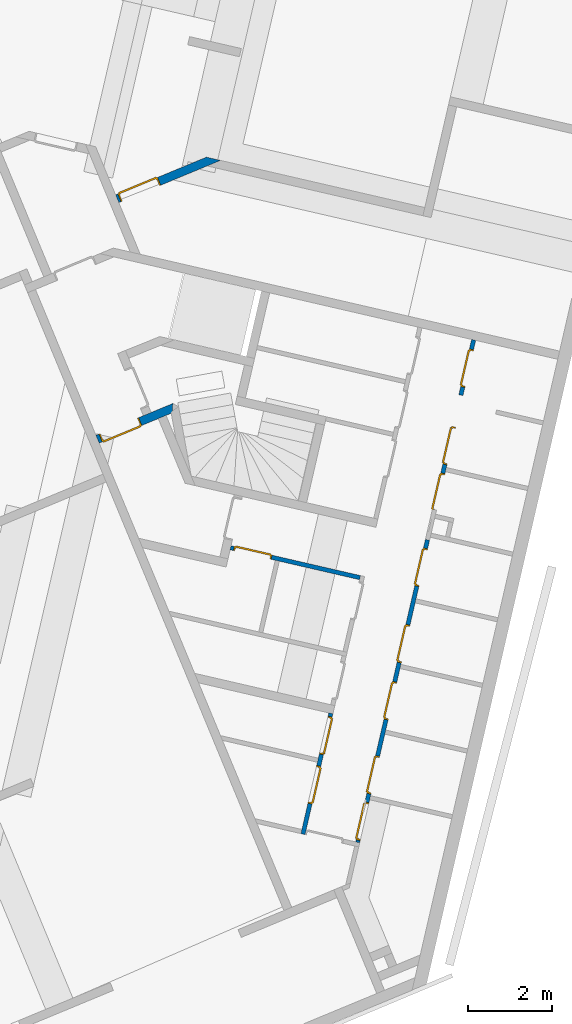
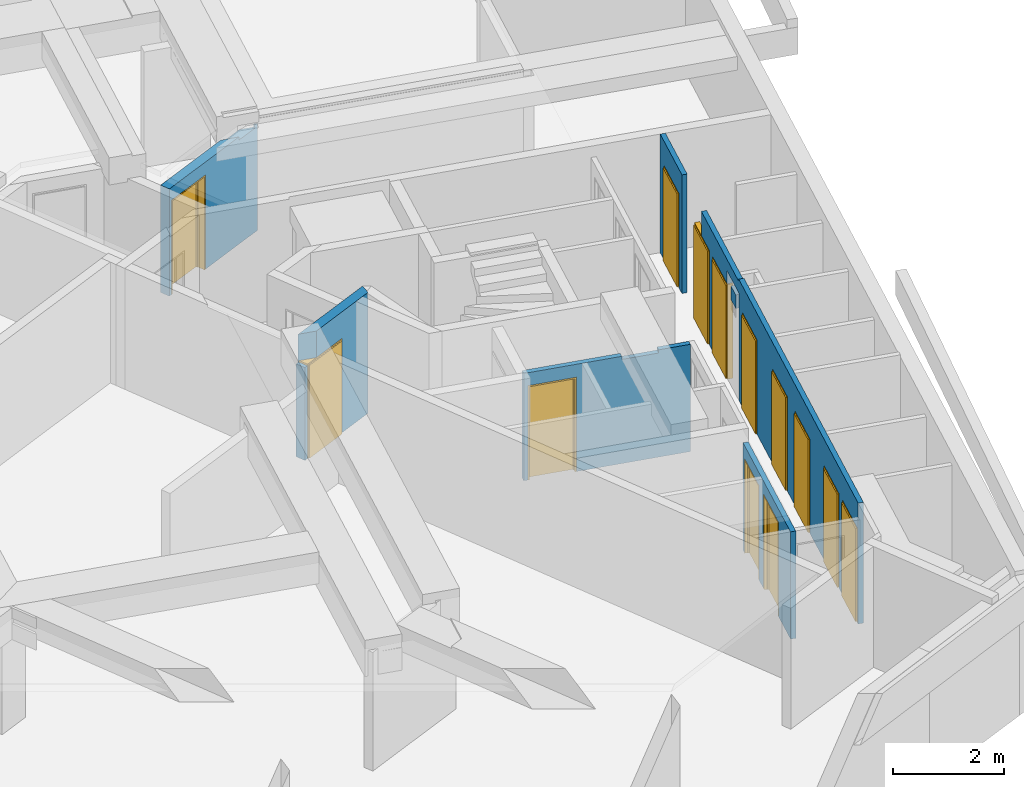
# One storey, part 5 of 20: 13 doors, 5 walls, 13 openings.
"""IFC2X3 building model written with IfcOpenShell, lengths in metres."""

from ifc_helpers import new_model, entity, si_unit, converted_unit, derived_unit, money_unit, direction, frame, origin_with_axes, place, context, subcontext, project, spatial, faceted_brep, source, transform, mapped, material, type_object, element, fill, save


model = new_model("IFC2X3")

# Units and contexts
model_context = context("Model", 3, precision=1e-05, world=origin_with_axes(), true_north=direction((0.0, 1.0)))
body_context = subcontext(model_context, "Body", "Model", "MODEL_VIEW")
ifc_project = project(units=[si_unit("LENGTHUNIT", "METRE"), si_unit("AREAUNIT", "SQUARE_METRE"), si_unit("VOLUMEUNIT", "CUBIC_METRE"), converted_unit("PLANEANGLEUNIT", "DEGREE", entity("IfcPlaneAngleMeasure", 0.0174532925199), si_unit("PLANEANGLEUNIT", "RADIAN"), dimensions=[0, 0, 0, 0, 0, 0, 0]), si_unit("SOLIDANGLEUNIT", "STERADIAN"), money_unit("EUR"), converted_unit("TIMEUNIT", "Year", entity("IfcTimeMeasure", 31556926.0), si_unit("TIMEUNIT", "SECOND"), dimensions=[0, 0, 1, 0, 0, 0, 0]), si_unit("MASSUNIT", "GRAM", prefix="KILO"), si_unit("THERMODYNAMICTEMPERATUREUNIT", "DEGREE_CELSIUS"), si_unit("LUMINOUSINTENSITYUNIT", "LUMEN"), si_unit("ENERGYUNIT", "JOULE", prefix="MEGA"), derived_unit("THERMALCONDUCTANCEUNIT", [(si_unit("POWERUNIT", "WATT"), 1), (si_unit("LENGTHUNIT", "METRE"), -1), (si_unit("THERMODYNAMICTEMPERATUREUNIT", "KELVIN"), -1)]), derived_unit("SPECIFICHEATCAPACITYUNIT", [(si_unit("ENERGYUNIT", "JOULE"), 1), (si_unit("MASSUNIT", "GRAM", prefix="KILO"), -1), (si_unit("THERMODYNAMICTEMPERATUREUNIT", "KELVIN"), -1)]), derived_unit("MASSDENSITYUNIT", [(si_unit("MASSUNIT", "GRAM", prefix="KILO"), 1), (si_unit("VOLUMEUNIT", "CUBIC_METRE"), -1)])], contexts=[model_context])

# Site, building, storey
site_placement = place(None, origin_with_axes())
site = spatial("IfcSite", under=ifc_project, at=site_placement, Name="Site", CompositionType="ELEMENT")
building_placement = place(site_placement, origin_with_axes())
building = spatial("IfcBuilding", under=site, at=building_placement, Name="Bâtiment", CompositionType="ELEMENT")
storey_placement = place(building_placement, frame((0.0, 0.0, -2.9), z_axis=(0.0, 0.0, 1.0), x_axis=(1.0, 0.0, 0.0)))
storey = spatial("IfcBuildingStorey", under=building, at=storey_placement, Name="Sous-sol", CompositionType="ELEMENT", Elevation=-2.9)

# Wall, opening, door
ifc_material_1 = material(Name="Béton")
wall_type_1 = type_object("IfcWallType", Name="Béton 200", PredefinedType="USERDEFINED")
wall_1_placement = place(storey_placement, frame((-9.51991530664, -7.52810035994, 0.0), z_axis=(0.0, 0.0, 1.0), x_axis=(-0.923701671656, -0.383112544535, 0.0)))
wall_1 = element("IfcWall", 1, at=wall_1_placement, inside=storey, type_object=wall_type_1, material=ifc_material_1, Name="M_Ext-007", ObjectType="SOLIDWALL", context=body_context, shape_type="Brep", body=[
    faceted_brep([(0.879333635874, 0.2, 2.085), (0.879333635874, 0.2, 0.0), (0.0956295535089, 0.2, 0.0), (0.0956295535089, 0.2, 2.67), (1.63554819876, 0.2, 2.67), (1.63554819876, 0.2, 2.085), (0.879333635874, 0.0, 2.085), (0.879333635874, 0.0, 0.0), (0.0, 0.0, 0.0), (0.0, 0.0, 2.67), (1.91570804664, 0.0, 2.67), (1.89933363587, 0.0116893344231, 2.085), (1.91570804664, 0.0, 2.0499999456), (1.89933363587, 0.0116893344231, 2.0499999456), (1.89933363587, 0.0, 2.085), (1.89933363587, 0.0, 0.0), (1.97710914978, 0.0, 0.0), (1.97710914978, 0.0, 2.0499999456), (1.89933363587, 0.2, 2.0499999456), (1.97710914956, 0.2, 2.0499999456), (1.89933363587, 0.2, 0.0), (1.97710914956, 0.2, 0.0)], [[[0, 1, 2, 3, 4, 5]], [[1, 0, 6, 7]], [[1, 7, 8, 2]], [[2, 8, 9, 3]], [[10, 4, 3, 9]], [[11, 5, 4, 10, 12, 13]], [[0, 5, 11, 14, 6]], [[14, 15, 16, 17, 12, 10, 9, 8, 7, 6]], [[18, 13, 12, 17, 19]], [[13, 18, 20, 15, 14, 11]], [[15, 20, 21, 16]], [[19, 17, 16, 21]], [[20, 18, 19, 21]]]),
])
opening_1_placement = place(wall_1_placement, frame((1.38933363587, 0.0, 0.0), z_axis=(0.0, 0.0, 1.0), x_axis=(1.0, 0.0, 0.0)))
opening_1 = element("IfcOpeningElement", 2, at=opening_1_placement, cuts=wall_1, Name="Porte 93x204 bois CF", context=body_context, shape_type="Brep", body=[
    faceted_brep([(0.51, -0.2, 0.0), (-0.51, -0.2, 0.0), (-0.51, 0.2, 0.0), (0.51, 0.2, 0.0), (0.51, -0.2, 2.085), (-0.51, -0.2, 2.085), (-0.51, 0.2, 2.085), (0.51, 0.2, 2.085)], [[[0, 1, 2, 3]], [[0, 4, 5, 1]], [[1, 5, 6, 2]], [[3, 2, 6, 7]], [[4, 0, 3, 7]], [[5, 4, 7, 6]]]),
])
door_style_1 = type_object("IfcDoorStyle", Name="Porte int générique 2019", ConstructionType="NOTDEFINED", OperationType="SINGLE_SWING_RIGHT", ParameterTakesPrecedence=False, Sizeable=False)
shared_shape_1 = source(origin_with_axes(), body_context, "Body", "Brep", [
    faceted_brep([(0.51, 0.12, 0.0), (0.48, 0.12, 0.0), (0.48, 0.12, 2.055), (-0.48, 0.12, 2.055), (-0.48, 0.12, 0.0), (-0.51, 0.12, 0.0), (-0.51, 0.12, 2.085), (0.51, 0.12, 2.085), (0.51, -0.08, 0.0), (0.48, -0.08, 0.0), (0.48, 0.075, 0.0), (0.465, 0.075, 0.0), (0.465, 0.105, 0.0), (0.48, 0.105, 0.0), (0.48, 0.105, 2.055), (-0.48, 0.105, 2.055), (-0.48, 0.105, 0.0), (-0.465, 0.105, 0.0), (-0.465, 0.075, 0.0), (-0.48, 0.075, 0.0), (-0.48, -0.08, 0.0), (-0.51, -0.08, 0.0), (-0.51, -0.08, 2.085), (0.51, -0.08, 2.085), (-0.48, -0.08, 2.055), (0.48, -0.08, 2.055), (0.48, 0.075, 2.055), (-0.48, 0.075, 2.055), (-0.465, 0.075, 2.04), (0.465, 0.075, 2.04), (0.465, 0.105, 2.04), (-0.465, 0.105, 2.04)], [[[0, 1, 2, 3, 4, 5, 6, 7]], [[0, 8, 9, 10, 11, 12, 13, 1]], [[1, 13, 14, 2]], [[2, 14, 15, 3]], [[3, 15, 16, 4]], [[5, 4, 16, 17, 18, 19, 20, 21]], [[22, 6, 5, 21]], [[23, 7, 6, 22]], [[8, 0, 7, 23]], [[9, 8, 23, 22, 21, 20, 24, 25]], [[10, 9, 25, 26]], [[11, 10, 26, 27, 19, 18, 28, 29]], [[12, 11, 29, 30]], [[13, 12, 30, 31, 17, 16, 15, 14]], [[31, 28, 18, 17]], [[27, 24, 20, 19]], [[26, 25, 24, 27]], [[30, 29, 28, 31]]]),
    faceted_brep([(0.48, 0.145, 0.0), (0.48, 0.105, 0.0), (-0.48, 0.105, 0.0), (-0.48, 0.145, 0.0), (0.48, 0.145, 2.055), (0.48, 0.105, 2.055), (-0.48, 0.105, 2.055), (-0.48, 0.145, 2.055)], [[[0, 1, 2, 3]], [[4, 5, 1, 0]], [[1, 5, 6, 2]], [[3, 2, 6, 7]], [[0, 3, 7, 4]], [[7, 6, 5, 4]]]),
])
door_1_placement = place(opening_1_placement, frame((-0.465, 0.0, 0.0), z_axis=(0.0, 0.0, 1.0), x_axis=(1.0, 0.0, 0.0)))
door_1 = element("IfcDoor", 3, at=door_1_placement, inside=storey, type_object=door_style_1, Name="Porte 93x204 bois CF", ObjectType="DOOR", OverallHeight=2.04, OverallWidth=0.93, context=body_context, shape_type="MappedRepresentation", body=[
    mapped(shared_shape_1, transform((0.465, 0.08, 0.0))),
])
fill(opening_1, door_1)

wall_2_placement = place(storey_placement, frame((-11.0643821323, -2.64828774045, 0.0), z_axis=(0.0, 0.0, 1.0), x_axis=(0.923701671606, 0.383112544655, 0.0)))
wall_2 = element("IfcWall", 4, at=wall_2_placement, inside=storey, type_object=wall_type_1, material=ifc_material_1, Name="M_Ext-007", ObjectType="SOLIDWALL", context=body_context, shape_type="Brep", body=[
    faceted_brep([(0.257725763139, -0.2, 0.0), (0.257725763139, -0.2, 2.085), (1.27772576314, -0.2, 2.085), (1.27772576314, -0.2, 0.0), (2.81630708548, -0.2, 0.0), (2.81630708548, -0.2, 2.37), (2.73141202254, -0.2, 2.37), (2.73141202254, -0.2, 2.3), (2.26934207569, -0.2, 2.3), (2.26934207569, -0.2, 2.37), (0.2, -0.2, 2.37), (0.2, -0.2, 0.0), (0.257725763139, 0.0, 0.0), (0.257725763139, 0.0, 2.085), (1.27772576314, 0.0, 2.085), (1.27772576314, 0.0, 0.0), (2.5361472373, 0.0, 0.0), (2.76007111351, -0.159854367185, 2.37), (2.5361472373, 0.0, 2.3), (2.76007111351, -0.159854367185, 2.3), (1.98918222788, 0.0, 2.3), (1.98918222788, 0.0, 2.37), (0.2, 0.0, 2.37), (0.2, 0.0, 0.0)], [[[0, 1, 2, 3, 4, 5, 6, 7, 8, 9, 10, 11]], [[1, 0, 12, 13]], [[2, 1, 13, 14]], [[3, 2, 14, 15]], [[3, 15, 16, 4]], [[17, 5, 4, 16, 18, 19]], [[5, 17, 6]], [[6, 17, 19, 7]], [[18, 20, 8, 7, 19]], [[21, 9, 8, 20]], [[9, 21, 22, 10]], [[23, 11, 10, 22]], [[12, 0, 11, 23]], [[13, 12, 23, 22, 21, 20, 18, 16, 15, 14]]]),
])
opening_2_placement = place(wall_2_placement, frame((0.767725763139, 0.0, 0.0), z_axis=(0.0, 0.0, 1.0), x_axis=(1.0, 0.0, 0.0)))
opening_2 = element("IfcOpeningElement", 5, at=opening_2_placement, cuts=wall_2, Name="Porte 93x204 bois CF", context=body_context, shape_type="Brep", body=[
    faceted_brep([(-0.51, 0.2, 0.0), (0.51, 0.2, 0.0), (0.51, -0.2, 0.0), (-0.51, -0.2, 0.0), (-0.51, 0.2, 2.085), (0.51, 0.2, 2.085), (0.51, -0.2, 2.085), (-0.51, -0.2, 2.085)], [[[0, 1, 2, 3]], [[0, 4, 5, 1]], [[1, 5, 6, 2]], [[3, 2, 6, 7]], [[4, 0, 3, 7]], [[5, 4, 7, 6]]]),
])
door_style_2 = type_object("IfcDoorStyle", Name="Porte int générique 2019", ConstructionType="NOTDEFINED", OperationType="SINGLE_SWING_LEFT", ParameterTakesPrecedence=False, Sizeable=False)
shared_shape_2 = source(origin_with_axes(), body_context, "Body", "Brep", [
    faceted_brep([(-0.51, 0.12, 0.0), (-0.51, 0.12, 2.085), (0.51, 0.12, 2.085), (0.51, 0.12, 0.0), (0.48, 0.12, 0.0), (0.48, 0.12, 2.055), (-0.48, 0.12, 2.055), (-0.48, 0.12, 0.0), (-0.51, -0.08, 0.0), (-0.51, -0.08, 2.085), (0.51, -0.08, 2.085), (0.51, -0.08, 0.0), (0.48, -0.08, 0.0), (0.48, 0.075, 0.0), (0.465, 0.075, 0.0), (0.465, 0.105, 0.0), (0.48, 0.105, 0.0), (0.48, 0.105, 2.055), (-0.48, 0.105, 2.055), (-0.48, 0.105, 0.0), (-0.465, 0.105, 0.0), (-0.465, 0.075, 0.0), (-0.48, 0.075, 0.0), (-0.48, -0.08, 0.0), (-0.48, -0.08, 2.055), (0.48, -0.08, 2.055), (0.48, 0.075, 2.055), (-0.465, 0.075, 2.04), (0.465, 0.075, 2.04), (-0.48, 0.075, 2.055), (0.465, 0.105, 2.04), (-0.465, 0.105, 2.04)], [[[0, 1, 2, 3, 4, 5, 6, 7]], [[8, 9, 1, 0]], [[9, 10, 2, 1]], [[10, 11, 3, 2]], [[3, 11, 12, 13, 14, 15, 16, 4]], [[5, 4, 16, 17]], [[6, 5, 17, 18]], [[7, 6, 18, 19]], [[0, 7, 19, 20, 21, 22, 23, 8]], [[23, 24, 25, 12, 11, 10, 9, 8]], [[26, 13, 12, 25]], [[21, 27, 28, 14, 13, 26, 29, 22]], [[30, 15, 14, 28]], [[19, 18, 17, 16, 15, 30, 31, 20]], [[20, 31, 27, 21]], [[22, 29, 24, 23]], [[29, 26, 25, 24]], [[31, 30, 28, 27]]]),
    faceted_brep([(-0.48, 0.145, 0.0), (0.48, 0.145, 0.0), (0.48, 0.105, 0.0), (-0.48, 0.105, 0.0), (-0.48, 0.145, 2.055), (0.48, 0.145, 2.055), (0.48, 0.105, 2.055), (-0.48, 0.105, 2.055)], [[[0, 1, 2, 3]], [[0, 4, 5, 1]], [[1, 5, 6, 2]], [[3, 2, 6, 7]], [[4, 0, 3, 7]], [[5, 4, 7, 6]]]),
])
door_2_placement = place(opening_2_placement, frame((-0.465, 0.0, 0.0), z_axis=(0.0, 0.0, 1.0), x_axis=(1.0, 0.0, 0.0)))
door_2 = element("IfcDoor", 6, at=door_2_placement, inside=storey, type_object=door_style_2, Name="Porte 93x204 bois CF", ObjectType="DOOR", OverallHeight=2.04, OverallWidth=0.93, context=body_context, shape_type="MappedRepresentation", body=[
    mapped(shared_shape_2, transform((0.465, -0.12, 0.0))),
])
fill(opening_2, door_2)

# Wall, openings, doors
ifc_material_2 = material(Name="Parpaing 10cm")
wall_type_2 = type_object("IfcWallType", Name="Parpaing 10cm 100", PredefinedType="USERDEFINED")
wall_3_placement = place(storey_placement, frame((-2.42304476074, -6.00670699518, 0.0), z_axis=(0.0, 0.0, 1.0), x_axis=(-0.224876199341, -0.974387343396, 0.0)))
wall_3 = element("IfcWall", 7, at=wall_3_placement, inside=storey, type_object=wall_type_2, material=ifc_material_2, Name="Parpaing 10x50x20", ObjectType="PARTITIONING", context=body_context, shape_type="Brep", body=[
    faceted_brep([(4.38007385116, 0.0, 2.2), (4.38007385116, 0.0, 1.9), (4.68007385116, -1.52561741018e-10, 1.9), (4.68007385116, -1.52561741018e-10, 2.2), (4.38007385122, 0.100000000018, 2.2), (4.38007385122, 0.100000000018, 1.9), (4.68007385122, 0.0999999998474, 1.9), (4.68007385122, 0.0999999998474, 2.2)], [[[0, 1, 2, 3]], [[1, 0, 4, 5]], [[2, 1, 5, 6]], [[3, 2, 6, 7]], [[0, 3, 7, 4]], [[4, 7, 6, 5]]]),
    faceted_brep([(12.1948722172, 0.099999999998, 0.0), (12.1948722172, 0.0999999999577, 2.085), (11.2748722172, 0.0999999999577, 2.085), (11.2748722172, 0.0999999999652, 0.0), (11.063398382, 0.0999999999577, 0.0), (11.063398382, 0.0999999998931, 2.085), (10.143398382, 0.0999999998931, 2.085), (10.143398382, 0.0999999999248, 0.0), (9.25561383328, 0.0999999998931, 0.0), (9.25561383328, 0.0999999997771, 2.085), (8.33561383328, 0.0999999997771, 2.085), (8.33561383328, 0.0999999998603, 0.0), (7.86501033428, 0.0999999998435, 0.0), (7.86501033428, 0.100000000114, 2.085), (6.94501033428, 0.100000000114, 2.085), (6.94501033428, 0.0999999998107, 0.0), (6.00294904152, 0.0999999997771, 0.0), (6.00294904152, 0.0999999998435, 2.085), (5.08294904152, 0.0999999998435, 2.085), (5.08294904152, 0.0999999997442, 0.0), (4.8749999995, 0.0999999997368, 0.0), (4.8749999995, 0.0999999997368, 2.37), (4.1386356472, 0.100000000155, 2.37), (4.1386356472, 0.100000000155, 2.085), (3.25164068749, 0.100000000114, 2.085), (3.25164068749, 0.100000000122, 0.0), (3.03685922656, 0.100000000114, 0.0), (3.03685922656, 0.100000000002, 2.085), (2.54724403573, 0.100000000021, 2.085), (2.54724403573, 0.100000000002, 2.62), (4.85999541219, 0.1, 2.62), (4.85999618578, 0.1, 2.67), (12.2500000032, 0.1, 2.67), (12.2500000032, 0.1, 2.37), (12.2500000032, 0.1, 0.0), (12.1948722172, 0.0, 0.0), (12.1948722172, 0.0, 2.085), (11.2748722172, 0.0, 2.085), (11.2748722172, 0.0, 0.0), (11.063398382, 0.0, 0.0), (11.063398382, 0.0, 2.085), (10.143398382, 0.0, 2.085), (10.143398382, 0.0, 0.0), (9.25561383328, -1.08954401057e-10, 0.0), (9.25561383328, 0.0, 2.085), (8.33561383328, 0.0, 2.085), (8.33561383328, -1.41347156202e-10, 0.0), (7.86501033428, -1.579170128e-10, 0.0), (7.86501033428, 0.0, 2.085), (6.94501033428, 0.0, 2.085), (6.94501033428, -1.90311100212e-10, 0.0), (6.00294904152, -2.23480123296e-10, 0.0), (6.00294904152, 0.0, 2.085), (5.08294904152, 0.0, 2.085), (5.08294904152, -2.55871990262e-10, 0.0), (4.87499999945, -2.63194133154e-10, 0.0), (4.87499999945, -2.63194133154e-10, 2.37), (4.13863564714, 1.54739998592e-10, 2.37), (4.13863564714, 1.54739998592e-10, 2.085), (3.25164068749, 0.0, 2.085), (3.25164068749, 1.21576748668e-10, 0.0), (3.03685922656, 1.13545839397e-10, 0.0), (3.03685922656, 0.0, 2.085), (2.54724403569, 0.0, 2.085), (2.54724403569, 0.0, 2.62), (4.85999525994, 0.0, 2.62), (4.85999599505, 0.0, 2.67), (12.2500000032, 0.0, 2.67), (12.2500000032, 0.0, 0.0), (12.2500000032, 0.0, 2.37)], [[[0, 1, 2, 3, 4, 5, 6, 7, 8, 9, 10, 11, 12, 13, 14, 15, 16, 17, 18, 19, 20, 21, 22, 23, 24, 25, 26, 27, 28, 29, 30, 31, 32, 33, 34]], [[1, 0, 35, 36]], [[2, 1, 36, 37]], [[3, 2, 37, 38]], [[3, 38, 39, 4]], [[4, 39, 40, 5]], [[5, 40, 41, 6]], [[6, 41, 42, 7]], [[42, 43, 8, 7]], [[43, 44, 9, 8]], [[44, 45, 10, 9]], [[45, 46, 11, 10]], [[47, 12, 11, 46]], [[13, 12, 47, 48]], [[14, 13, 48, 49]], [[15, 14, 49, 50]], [[50, 51, 16, 15]], [[52, 17, 16, 51]], [[53, 18, 17, 52]], [[54, 19, 18, 53]], [[20, 19, 54, 55]], [[20, 55, 56, 21]], [[21, 56, 57, 22]], [[23, 22, 57, 58]], [[23, 58, 59, 24]], [[24, 59, 60, 25]], [[60, 61, 26, 25]], [[61, 62, 27, 26]], [[27, 62, 63, 28]], [[64, 29, 28, 63]], [[64, 65, 30, 29]], [[30, 65, 66, 31]], [[67, 32, 31, 66]], [[68, 34, 33, 32, 67, 69]], [[35, 0, 34, 68]], [[36, 35, 68, 69, 67, 66, 65, 64, 63, 62, 61, 60, 59, 58, 57, 56, 55, 54, 53, 52, 51, 50, 49, 48, 47, 46, 45, 44, 43, 42, 41, 40, 39, 38, 37]]]),
    faceted_brep([(1.15004898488, 0.100000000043, 0.0), (1.15004898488, 0.1, 2.085), (0.230048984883, 0.1, 2.085), (0.230048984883, 0.100000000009, 0.0), (-4.32536673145e-10, 0.1, 0.0), (-4.32535784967e-10, 0.1, 2.62), (1.34724403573, 0.100000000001, 2.62), (1.34724403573, 0.10000000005, 0.0), (1.15004898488, 0.0, 0.0), (1.15004898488, 0.0, 2.085), (0.230048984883, 0.0, 2.085), (0.230048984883, 0.0, 0.0), (-4.87980322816e-10, 0.0, 0.0), (-4.87980322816e-10, 0.0, 2.62), (1.34724403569, 0.0, 2.62), (1.34724403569, 0.0, 0.0)], [[[0, 1, 2, 3, 4, 5, 6, 7]], [[1, 0, 8, 9]], [[2, 1, 9, 10]], [[3, 2, 10, 11]], [[3, 11, 12, 4]], [[13, 5, 4, 12]], [[6, 5, 13, 14]], [[6, 14, 15, 7]], [[8, 0, 7, 15]], [[9, 8, 15, 14, 13, 12, 11, 10]]]),
])
opening_3_placement = place(wall_3_placement, frame((0.690048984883, 0.0, 0.0), z_axis=(0.0, 0.0, 1.0), x_axis=(1.0, 0.0, 0.0)))
opening_3 = element("IfcOpeningElement", 8, at=opening_3_placement, cuts=wall_3, Name="Porte 83x204 bois bâti métal", context=body_context, shape_type="Brep", body=[
    faceted_brep([(-0.46, 0.1, 0.0), (0.46, 0.1, 0.0), (0.46, -0.1, 0.0), (-0.46, -0.1, 0.0), (-0.46, 0.1, 2.085), (0.46, 0.1, 2.085), (0.46, -0.1, 2.085), (-0.46, -0.1, 2.085)], [[[0, 1, 2, 3]], [[0, 4, 5, 1]], [[1, 5, 6, 2]], [[3, 2, 6, 7]], [[4, 0, 3, 7]], [[5, 4, 7, 6]]]),
])
opening_4_placement = place(wall_3_placement, frame((2.57685922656, 0.0, 0.0), z_axis=(0.0, 0.0, 1.0), x_axis=(1.0, 0.0, 0.0)))
opening_4 = element("IfcOpeningElement", 9, at=opening_4_placement, cuts=wall_3, Name="Porte 83x204 bois bâti métal", context=body_context, shape_type="Brep", body=[
    faceted_brep([(-0.46, 0.1, 0.0), (0.46, 0.1, 0.0), (0.46, -0.1, 0.0), (-0.46, -0.1, 0.0), (-0.46, 0.1, 2.085), (0.46, 0.1, 2.085), (0.46, -0.1, 2.085), (-0.46, -0.1, 2.085)], [[[0, 1, 2, 3]], [[0, 4, 5, 1]], [[1, 5, 6, 2]], [[3, 2, 6, 7]], [[4, 0, 3, 7]], [[5, 4, 7, 6]]]),
])
opening_5_placement = place(wall_3_placement, frame((3.71164068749, 0.0, 0.0), z_axis=(0.0, 0.0, 1.0), x_axis=(1.0, 0.0, 0.0)))
opening_5 = element("IfcOpeningElement", 10, at=opening_5_placement, cuts=wall_3, Name="Porte 83x204 bois bâti métal", context=body_context, shape_type="Brep", body=[
    faceted_brep([(-0.46, 0.1, 0.0), (0.46, 0.1, 0.0), (0.46, -0.1, 0.0), (-0.46, -0.1, 0.0), (-0.46, 0.1, 2.085), (0.46, 0.1, 2.085), (0.46, -0.1, 2.085), (-0.46, -0.1, 2.085)], [[[0, 1, 2, 3]], [[0, 4, 5, 1]], [[1, 5, 6, 2]], [[3, 2, 6, 7]], [[4, 0, 3, 7]], [[5, 4, 7, 6]]]),
])
opening_6_placement = place(wall_3_placement, frame((7.40501033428, 0.0, 0.0), z_axis=(0.0, 0.0, 1.0), x_axis=(1.0, 0.0, 0.0)))
opening_6 = element("IfcOpeningElement", 11, at=opening_6_placement, cuts=wall_3, Name="Porte 83x204 bois bâti métal", context=body_context, shape_type="Brep", body=[
    faceted_brep([(0.46, -0.1, 0.0), (-0.46, -0.1, 0.0), (-0.46, 0.1, 0.0), (0.46, 0.1, 0.0), (0.46, -0.1, 2.085), (-0.46, -0.1, 2.085), (-0.46, 0.1, 2.085), (0.46, 0.1, 2.085)], [[[0, 1, 2, 3]], [[0, 4, 5, 1]], [[1, 5, 6, 2]], [[3, 2, 6, 7]], [[4, 0, 3, 7]], [[5, 4, 7, 6]]]),
])
opening_7_placement = place(wall_3_placement, frame((5.54294904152, 0.0, 0.0), z_axis=(0.0, 0.0, 1.0), x_axis=(1.0, 0.0, 0.0)))
opening_7 = element("IfcOpeningElement", 12, at=opening_7_placement, cuts=wall_3, Name="Porte 83x204 bois bâti métal", context=body_context, shape_type="Brep", body=[
    faceted_brep([(0.46, -0.1, 0.0), (-0.46, -0.1, 0.0), (-0.46, 0.1, 0.0), (0.46, 0.1, 0.0), (0.46, -0.1, 2.085), (-0.46, -0.1, 2.085), (-0.46, 0.1, 2.085), (0.46, 0.1, 2.085)], [[[0, 1, 2, 3]], [[0, 4, 5, 1]], [[1, 5, 6, 2]], [[3, 2, 6, 7]], [[4, 0, 3, 7]], [[5, 4, 7, 6]]]),
])
opening_8_placement = place(wall_3_placement, frame((8.79561383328, 0.0, 0.0), z_axis=(0.0, 0.0, 1.0), x_axis=(1.0, 0.0, 0.0)))
opening_8 = element("IfcOpeningElement", 13, at=opening_8_placement, cuts=wall_3, Name="Porte 83x204 bois bâti métal", context=body_context, shape_type="Brep", body=[
    faceted_brep([(0.46, -0.1, 0.0), (-0.46, -0.1, 0.0), (-0.46, 0.1, 0.0), (0.46, 0.1, 0.0), (0.46, -0.1, 2.085), (-0.46, -0.1, 2.085), (-0.46, 0.1, 2.085), (0.46, 0.1, 2.085)], [[[0, 1, 2, 3]], [[0, 4, 5, 1]], [[1, 5, 6, 2]], [[3, 2, 6, 7]], [[4, 0, 3, 7]], [[5, 4, 7, 6]]]),
])
opening_9_placement = place(wall_3_placement, frame((10.603398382, 0.0, 0.0), z_axis=(0.0, 0.0, 1.0), x_axis=(1.0, 0.0, 0.0)))
opening_9 = element("IfcOpeningElement", 14, at=opening_9_placement, cuts=wall_3, Name="Porte 83x204 bois bâti métal", context=body_context, shape_type="Brep", body=[
    faceted_brep([(0.46, -0.1, 0.0), (-0.46, -0.1, 0.0), (-0.46, 0.1, 0.0), (0.46, 0.1, 0.0), (0.46, -0.1, 2.085), (-0.46, -0.1, 2.085), (-0.46, 0.1, 2.085), (0.46, 0.1, 2.085)], [[[0, 1, 2, 3]], [[0, 4, 5, 1]], [[1, 5, 6, 2]], [[3, 2, 6, 7]], [[4, 0, 3, 7]], [[5, 4, 7, 6]]]),
])
opening_10_placement = place(wall_3_placement, frame((11.7348722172, 0.0, 0.0), z_axis=(0.0, 0.0, 1.0), x_axis=(1.0, 0.0, 0.0)))
opening_10 = element("IfcOpeningElement", 15, at=opening_10_placement, cuts=wall_3, Name="Porte 83x204 bois bâti métal", context=body_context, shape_type="Brep", body=[
    faceted_brep([(0.46, -0.1, 0.0), (-0.46, -0.1, 0.0), (-0.46, 0.1, 0.0), (0.46, 0.1, 0.0), (0.46, -0.1, 2.085), (-0.46, -0.1, 2.085), (-0.46, 0.1, 2.085), (0.46, 0.1, 2.085)], [[[0, 1, 2, 3]], [[0, 4, 5, 1]], [[1, 5, 6, 2]], [[3, 2, 6, 7]], [[4, 0, 3, 7]], [[5, 4, 7, 6]]]),
])
shared_shape_3 = source(origin_with_axes(), body_context, "Body", "Brep", [
    faceted_brep([(-0.46, 0.0, 0.0), (-0.46, 0.0, 2.085), (0.46, 0.0, 2.085), (0.46, 0.0, 0.0), (0.43, 0.0, 0.0), (0.43, 0.0, 2.055), (-0.43, 0.0, 2.055), (-0.43, 0.0, 0.0), (-0.46, -0.1, 0.0), (-0.46, -0.1, 2.085), (0.46, -0.1, 2.085), (0.46, -0.1, 0.0), (0.43, -0.1, 0.0), (0.43, -0.045, 0.0), (0.415, -0.045, 0.0), (0.415, -0.015, 0.0), (0.43, -0.015, 0.0), (0.43, -0.015, 2.055), (-0.43, -0.015, 2.055), (-0.43, -0.015, 0.0), (-0.415, -0.015, 0.0), (-0.415, -0.045, 0.0), (-0.43, -0.045, 0.0), (-0.43, -0.1, 0.0), (-0.43, -0.1, 2.055), (0.43, -0.1, 2.055), (0.43, -0.045, 2.055), (-0.415, -0.045, 2.04), (0.415, -0.045, 2.04), (-0.43, -0.045, 2.055), (0.415, -0.015, 2.04), (-0.415, -0.015, 2.04)], [[[0, 1, 2, 3, 4, 5, 6, 7]], [[8, 9, 1, 0]], [[9, 10, 2, 1]], [[10, 11, 3, 2]], [[3, 11, 12, 13, 14, 15, 16, 4]], [[5, 4, 16, 17]], [[6, 5, 17, 18]], [[7, 6, 18, 19]], [[0, 7, 19, 20, 21, 22, 23, 8]], [[23, 24, 25, 12, 11, 10, 9, 8]], [[26, 13, 12, 25]], [[21, 27, 28, 14, 13, 26, 29, 22]], [[30, 15, 14, 28]], [[19, 18, 17, 16, 15, 30, 31, 20]], [[20, 31, 27, 21]], [[22, 29, 24, 23]], [[29, 26, 25, 24]], [[31, 30, 28, 27]]]),
    faceted_brep([(-0.43, 0.025, 0.0), (0.43, 0.025, 0.0), (0.43, -0.015, 0.0), (-0.43, -0.015, 0.0), (-0.43, 0.025, 2.055), (0.43, 0.025, 2.055), (0.43, -0.015, 2.055), (-0.43, -0.015, 2.055)], [[[0, 1, 2, 3]], [[0, 4, 5, 1]], [[1, 5, 6, 2]], [[3, 2, 6, 7]], [[4, 0, 3, 7]], [[5, 4, 7, 6]]]),
])
door_3_placement = place(opening_6_placement, frame((0.415, 0.0, 0.0), z_axis=(0.0, 0.0, 1.0), x_axis=(-1.0, 0.0, 0.0)))
door_3 = element("IfcDoor", 16, at=door_3_placement, inside=storey, type_object=door_style_2, Name="Porte 83x204 bois bâti métal", ObjectType="DOOR", OverallHeight=2.04, OverallWidth=0.83, context=body_context, shape_type="MappedRepresentation", body=[
    mapped(shared_shape_3, transform((0.415, 0.0, 0.0))),
])
fill(opening_6, door_3)
door_4_placement = place(opening_7_placement, frame((0.415, 0.0, 0.0), z_axis=(0.0, 0.0, 1.0), x_axis=(-1.0, 0.0, 0.0)))
door_4 = element("IfcDoor", 17, at=door_4_placement, inside=storey, type_object=door_style_2, Name="Porte 83x204 bois bâti métal", ObjectType="DOOR", OverallHeight=2.04, OverallWidth=0.83, context=body_context, shape_type="MappedRepresentation", body=[
    mapped(shared_shape_3, transform((0.415, 0.0, 0.0))),
])
fill(opening_7, door_4)
door_5_placement = place(opening_8_placement, frame((0.415, 0.0, 0.0), z_axis=(0.0, 0.0, 1.0), x_axis=(-1.0, 0.0, 0.0)))
door_5 = element("IfcDoor", 18, at=door_5_placement, inside=storey, type_object=door_style_2, Name="Porte 83x204 bois bâti métal", ObjectType="DOOR", OverallHeight=2.04, OverallWidth=0.83, context=body_context, shape_type="MappedRepresentation", body=[
    mapped(shared_shape_3, transform((0.415, 0.0, 0.0))),
])
fill(opening_8, door_5)
door_6_placement = place(opening_9_placement, frame((0.415, 0.0, 0.0), z_axis=(0.0, 0.0, 1.0), x_axis=(-1.0, 0.0, 0.0)))
door_6 = element("IfcDoor", 19, at=door_6_placement, inside=storey, type_object=door_style_2, Name="Porte 83x204 bois bâti métal", ObjectType="DOOR", OverallHeight=2.04, OverallWidth=0.83, context=body_context, shape_type="MappedRepresentation", body=[
    mapped(shared_shape_3, transform((0.415, 0.0, 0.0))),
])
fill(opening_9, door_6)
door_7_placement = place(opening_10_placement, frame((0.415, 0.0, 0.0), z_axis=(0.0, 0.0, 1.0), x_axis=(-1.0, 0.0, 0.0)))
door_7 = element("IfcDoor", 20, at=door_7_placement, inside=storey, type_object=door_style_2, Name="Porte 83x204 bois bâti métal", ObjectType="DOOR", OverallHeight=2.04, OverallWidth=0.83, context=body_context, shape_type="MappedRepresentation", body=[
    mapped(shared_shape_3, transform((0.415, 0.0, 0.0))),
])
fill(opening_10, door_7)
shared_shape_4 = source(origin_with_axes(), body_context, "Body", "Brep", [
    faceted_brep([(0.46, 0.0, 0.0), (0.43, 0.0, 0.0), (0.43, 0.0, 2.055), (-0.43, 0.0, 2.055), (-0.43, 0.0, 0.0), (-0.46, 0.0, 0.0), (-0.46, 0.0, 2.085), (0.46, 0.0, 2.085), (0.46, -0.1, 0.0), (0.43, -0.1, 0.0), (0.43, -0.045, 0.0), (0.415, -0.045, 0.0), (0.415, -0.015, 0.0), (0.43, -0.015, 0.0), (0.43, -0.015, 2.055), (-0.43, -0.015, 2.055), (-0.43, -0.015, 0.0), (-0.415, -0.015, 0.0), (-0.415, -0.045, 0.0), (-0.43, -0.045, 0.0), (-0.43, -0.1, 0.0), (-0.46, -0.1, 0.0), (-0.46, -0.1, 2.085), (0.46, -0.1, 2.085), (-0.43, -0.1, 2.055), (0.43, -0.1, 2.055), (0.43, -0.045, 2.055), (-0.43, -0.045, 2.055), (-0.415, -0.045, 2.04), (0.415, -0.045, 2.04), (0.415, -0.015, 2.04), (-0.415, -0.015, 2.04)], [[[0, 1, 2, 3, 4, 5, 6, 7]], [[0, 8, 9, 10, 11, 12, 13, 1]], [[1, 13, 14, 2]], [[2, 14, 15, 3]], [[3, 15, 16, 4]], [[5, 4, 16, 17, 18, 19, 20, 21]], [[22, 6, 5, 21]], [[23, 7, 6, 22]], [[8, 0, 7, 23]], [[9, 8, 23, 22, 21, 20, 24, 25]], [[10, 9, 25, 26]], [[11, 10, 26, 27, 19, 18, 28, 29]], [[12, 11, 29, 30]], [[13, 12, 30, 31, 17, 16, 15, 14]], [[31, 28, 18, 17]], [[27, 24, 20, 19]], [[26, 25, 24, 27]], [[30, 29, 28, 31]]]),
    faceted_brep([(0.43, 0.025, 0.0), (0.43, -0.015, 0.0), (-0.43, -0.015, 0.0), (-0.43, 0.025, 0.0), (0.43, 0.025, 2.055), (0.43, -0.015, 2.055), (-0.43, -0.015, 2.055), (-0.43, 0.025, 2.055)], [[[0, 1, 2, 3]], [[4, 5, 1, 0]], [[1, 5, 6, 2]], [[3, 2, 6, 7]], [[0, 3, 7, 4]], [[7, 6, 5, 4]]]),
])
door_8_placement = place(opening_3_placement, frame((0.415, 0.0, 0.0), z_axis=(0.0, 0.0, 1.0), x_axis=(-1.0, 0.0, 0.0)))
door_8 = element("IfcDoor", 21, at=door_8_placement, inside=storey, type_object=door_style_1, Name="Porte 83x204 bois bâti métal", ObjectType="DOOR", OverallHeight=2.04, OverallWidth=0.83, context=body_context, shape_type="MappedRepresentation", body=[
    mapped(shared_shape_4, transform((0.415, 0.0, 0.0))),
])
fill(opening_3, door_8)
door_9_placement = place(opening_4_placement, frame((0.415, 0.0, 0.0), z_axis=(0.0, 0.0, 1.0), x_axis=(-1.0, 0.0, 0.0)))
door_9 = element("IfcDoor", 22, at=door_9_placement, inside=storey, type_object=door_style_1, Name="Porte 83x204 bois bâti métal", ObjectType="DOOR", OverallHeight=2.04, OverallWidth=0.83, context=body_context, shape_type="MappedRepresentation", body=[
    mapped(shared_shape_4, transform((0.415, 0.0, 0.0))),
])
fill(opening_4, door_9)
door_10_placement = place(opening_5_placement, frame((0.415, 0.0, 0.0), z_axis=(0.0, 0.0, 1.0), x_axis=(-1.0, 0.0, 0.0)))
door_10 = element("IfcDoor", 23, at=door_10_placement, inside=storey, type_object=door_style_1, Name="Porte 83x204 bois bâti métal", ObjectType="DOOR", OverallHeight=2.04, OverallWidth=0.83, context=body_context, shape_type="MappedRepresentation", body=[
    mapped(shared_shape_4, transform((0.415, 0.0, 0.0))),
])
fill(opening_5, door_10)

wall_4_placement = place(storey_placement, frame((-5.67255689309, -14.7060869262, 0.0), z_axis=(0.0, 0.0, 1.0), x_axis=(-0.224876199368, -0.97438734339, 0.0)))
wall_4 = element("IfcWall", 24, at=wall_4_placement, inside=storey, type_object=wall_type_2, material=ifc_material_2, Name="Parpaing 10x50x20", ObjectType="PARTITIONING", context=body_context, shape_type="Brep", body=[
    faceted_brep([(2.4017900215, 0.0, 0.0), (2.4017900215, 0.0, 2.085), (1.4817900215, 0.0, 2.085), (1.4817900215, 0.0, 0.0), (1.20012981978, 0.0, 0.0), (1.20012981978, 0.0, 2.085), (0.280129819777, 0.0, 2.085), (0.280129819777, 0.0, 0.0), (0.199999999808, 0.0, 0.0), (0.199999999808, 0.0, 2.37), (3.14269636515, 0.0, 2.37), (3.14269636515, 0.0, 0.0), (2.4017900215, -0.1, 0.0), (2.4017900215, -0.1, 2.085), (1.4817900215, -0.1, 2.085), (1.4817900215, -0.1, 0.0), (1.20012981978, -0.1, 0.0), (1.20012981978, -0.1, 2.085), (0.280129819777, -0.1, 2.085), (0.280129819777, -0.1, 0.0), (0.199999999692, -0.1, 0.0), (0.199999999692, -0.1, 2.37), (3.14269636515, -0.1, 2.37), (3.14269636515, -0.1, 0.0)], [[[0, 1, 2, 3, 4, 5, 6, 7, 8, 9, 10, 11]], [[1, 0, 12, 13]], [[2, 1, 13, 14]], [[3, 2, 14, 15]], [[3, 15, 16, 4]], [[4, 16, 17, 5]], [[5, 17, 18, 6]], [[6, 18, 19, 7]], [[19, 20, 8, 7]], [[21, 9, 8, 20]], [[9, 21, 22, 10]], [[11, 10, 22, 23]], [[12, 0, 11, 23]], [[13, 12, 23, 22, 21, 20, 19, 18, 17, 16, 15, 14]]]),
])
opening_11_placement = place(wall_4_placement, frame((0.740129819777, 0.0, 0.0), z_axis=(0.0, 0.0, 1.0), x_axis=(1.0, 0.0, 0.0)))
opening_11 = element("IfcOpeningElement", 25, at=opening_11_placement, cuts=wall_4, Name="Porte 83x204 bois bâti métal", context=body_context, shape_type="Brep", body=[
    faceted_brep([(0.46, -0.1, 0.0), (-0.46, -0.1, 0.0), (-0.46, 0.1, 0.0), (0.46, 0.1, 0.0), (0.46, -0.1, 2.085), (-0.46, -0.1, 2.085), (-0.46, 0.1, 2.085), (0.46, 0.1, 2.085)], [[[0, 1, 2, 3]], [[0, 4, 5, 1]], [[1, 5, 6, 2]], [[3, 2, 6, 7]], [[4, 0, 3, 7]], [[5, 4, 7, 6]]]),
])
opening_12_placement = place(wall_4_placement, frame((1.9417900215, 0.0, 0.0), z_axis=(0.0, 0.0, 1.0), x_axis=(1.0, 0.0, 0.0)))
opening_12 = element("IfcOpeningElement", 26, at=opening_12_placement, cuts=wall_4, Name="Porte 83x204 bois bâti métal", context=body_context, shape_type="Brep", body=[
    faceted_brep([(0.46, -0.1, 0.0), (-0.46, -0.1, 0.0), (-0.46, 0.1, 0.0), (0.46, 0.1, 0.0), (0.46, -0.1, 2.085), (-0.46, -0.1, 2.085), (-0.46, 0.1, 2.085), (0.46, 0.1, 2.085)], [[[0, 1, 2, 3]], [[0, 4, 5, 1]], [[1, 5, 6, 2]], [[3, 2, 6, 7]], [[4, 0, 3, 7]], [[5, 4, 7, 6]]]),
])
door_11_placement = place(opening_11_placement, frame((-0.415, 0.0, 0.0), z_axis=(0.0, 0.0, 1.0), x_axis=(1.0, 0.0, 0.0)))
door_11 = element("IfcDoor", 27, at=door_11_placement, inside=storey, type_object=door_style_1, Name="Porte 83x204 bois bâti métal", ObjectType="DOOR", OverallHeight=2.04, OverallWidth=0.83, context=body_context, shape_type="MappedRepresentation", body=[
    mapped(shared_shape_4, transform((0.415, 0.0, 0.0))),
])
fill(opening_11, door_11)
door_12_placement = place(opening_12_placement, frame((-0.415, 0.0, 0.0), z_axis=(0.0, 0.0, 1.0), x_axis=(1.0, 0.0, 0.0)))
door_12 = element("IfcDoor", 28, at=door_12_placement, inside=storey, type_object=door_style_1, Name="Porte 83x204 bois bâti métal", ObjectType="DOOR", OverallHeight=2.04, OverallWidth=0.83, context=body_context, shape_type="MappedRepresentation", body=[
    mapped(shared_shape_4, transform((0.415, 0.0, 0.0))),
])
fill(opening_12, door_12)

# Wall, opening, door
wall_5_placement = place(storey_placement, frame((-8.15948040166, -11.0047318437, 0.0), z_axis=(0.0, 0.0, 1.0), x_axis=(0.974387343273, -0.224876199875, 0.0)))
wall_5 = element("IfcWall", 29, at=wall_5_placement, inside=storey, type_object=wall_type_2, material=ifc_material_2, Name="Parpaing 10x50x20", ObjectType="PARTITIONING", context=body_context, shape_type="Brep", body=[
    faceted_brep([(0.079075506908, 0.1, 2.085), (0.079075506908, 0.1, 0.0), (0.0, 0.1, 0.0), (0.0, 0.1, 2.37), (1.85458380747, 0.1, 2.37), (1.85458380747, 0.1, 2.3), (2.55458380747, 0.1, 2.3), (2.55458380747, 0.1, 2.37), (3.15557345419, 0.1, 2.37), (3.15557345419, 0.1, 0.0), (0.999075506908, 0.1, 0.0), (0.999075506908, 0.1, 2.085), (0.079075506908, 0.0, 2.085), (0.079075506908, 0.0, 0.0), (0.0, 0.0, 0.0), (0.0, 0.0, 2.37), (1.8545838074, 0.0, 2.37), (1.8545838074, 0.0, 2.3), (2.5545838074, 0.0, 2.3), (2.5545838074, 0.0, 2.37), (3.15557345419, 0.0, 2.37), (3.15557345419, 0.0, 0.0), (0.999075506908, 0.0, 0.0), (0.999075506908, 0.0, 2.085)], [[[0, 1, 2, 3, 4, 5, 6, 7, 8, 9, 10, 11]], [[1, 0, 12, 13]], [[1, 13, 14, 2]], [[15, 3, 2, 14]], [[16, 4, 3, 15]], [[5, 4, 16, 17]], [[6, 5, 17, 18]], [[19, 7, 6, 18]], [[7, 19, 20, 8]], [[20, 21, 9, 8]], [[22, 10, 9, 21]], [[11, 10, 22, 23]], [[0, 11, 23, 12]], [[23, 22, 21, 20, 19, 18, 17, 16, 15, 14, 13, 12]]]),
])
opening_13_placement = place(wall_5_placement, frame((0.539075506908, 0.0, 0.0), z_axis=(0.0, 0.0, 1.0), x_axis=(1.0, 0.0, 0.0)))
opening_13 = element("IfcOpeningElement", 30, at=opening_13_placement, cuts=wall_5, Name="Porte 83x204 bois bâti métal", context=body_context, shape_type="Brep", body=[
    faceted_brep([(-0.46, 0.1, 0.0), (0.46, 0.1, 0.0), (0.46, -0.1, 0.0), (-0.46, -0.1, 0.0), (-0.46, 0.1, 2.085), (0.46, 0.1, 2.085), (0.46, -0.1, 2.085), (-0.46, -0.1, 2.085)], [[[0, 1, 2, 3]], [[0, 4, 5, 1]], [[1, 5, 6, 2]], [[3, 2, 6, 7]], [[4, 0, 3, 7]], [[5, 4, 7, 6]]]),
])
door_13_placement = place(opening_13_placement, frame((-0.415, 0.0, 0.0), z_axis=(0.0, 0.0, 1.0), x_axis=(1.0, 0.0, 0.0)))
door_13 = element("IfcDoor", 31, at=door_13_placement, inside=storey, type_object=door_style_2, Name="Porte 83x204 bois bâti métal", ObjectType="DOOR", OverallHeight=2.04, OverallWidth=0.83, context=body_context, shape_type="MappedRepresentation", body=[
    mapped(shared_shape_3, transform((0.415, 0.1, 0.0))),
])
fill(opening_13, door_13)

save(model, "model.ifc")
